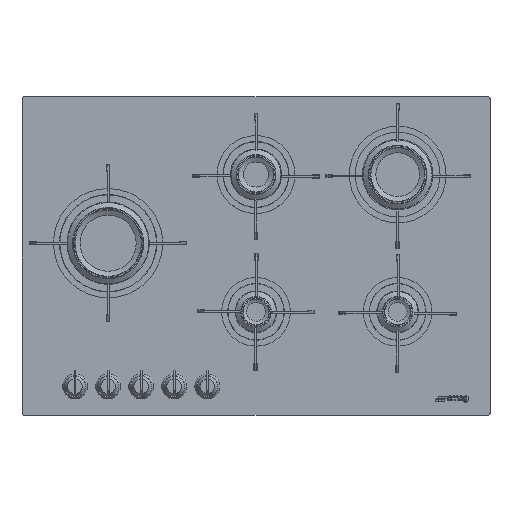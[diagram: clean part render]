
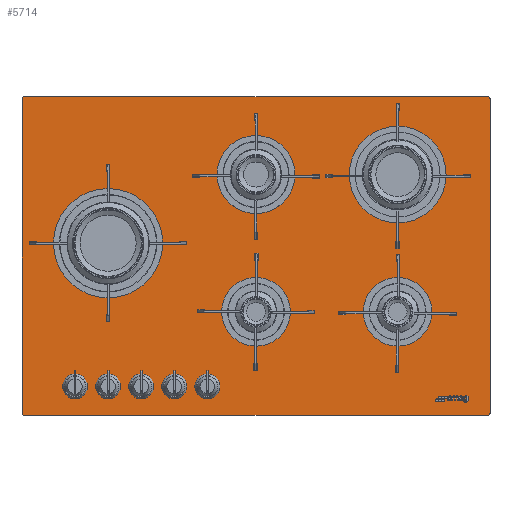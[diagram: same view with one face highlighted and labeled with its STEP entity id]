
A CAD part, top view. The second image highlights one B-rep face of the part: STEP entity #5714.
In plain terms, the highlighted planar face has unit normal (0, 0, 1).
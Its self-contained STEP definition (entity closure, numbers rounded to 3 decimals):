
#2130=PLANE('',#16593);
#3343=LINE('',#25058,#4717);
#3347=LINE('',#25067,#4721);
#3353=LINE('',#25081,#4727);
#3357=LINE('',#25090,#4731);
#4717=VECTOR('',#20330,1.);
#4721=VECTOR('',#20336,1.);
#4727=VECTOR('',#20344,1.);
#4731=VECTOR('',#20350,1.);
#5714=ADVANCED_FACE('',(#6378,#6379,#6380,#6381,#6382,#6383,#6384,#6385,
#6386,#6387,#6388),#2130,.T.);
#6378=FACE_BOUND('',#7298,.T.);
#6379=FACE_BOUND('',#7299,.T.);
#6380=FACE_BOUND('',#7300,.T.);
#6381=FACE_BOUND('',#7301,.T.);
#6382=FACE_BOUND('',#7302,.T.);
#6383=FACE_BOUND('',#7303,.T.);
#6384=FACE_BOUND('',#7304,.T.);
#6385=FACE_BOUND('',#7305,.T.);
#6386=FACE_BOUND('',#7306,.T.);
#6387=FACE_BOUND('',#7307,.T.);
#6388=FACE_BOUND('',#7308,.T.);
#7298=EDGE_LOOP('',(#10750));
#7299=EDGE_LOOP('',(#10751));
#7300=EDGE_LOOP('',(#10752));
#7301=EDGE_LOOP('',(#10753));
#7302=EDGE_LOOP('',(#10754));
#7303=EDGE_LOOP('',(#10755));
#7304=EDGE_LOOP('',(#10756));
#7305=EDGE_LOOP('',(#10757));
#7306=EDGE_LOOP('',(#10758));
#7307=EDGE_LOOP('',(#10759));
#7308=EDGE_LOOP('',(#10760,#10761,#10762,#10763,#10764,#10765,#10766,#10767));
#10750=ORIENTED_EDGE('',*,*,#14472,.F.);
#10751=ORIENTED_EDGE('',*,*,#14473,.F.);
#10752=ORIENTED_EDGE('',*,*,#14474,.F.);
#10753=ORIENTED_EDGE('',*,*,#14475,.F.);
#10754=ORIENTED_EDGE('',*,*,#14476,.F.);
#10755=ORIENTED_EDGE('',*,*,#14477,.F.);
#10756=ORIENTED_EDGE('',*,*,#14478,.F.);
#10757=ORIENTED_EDGE('',*,*,#14479,.F.);
#10758=ORIENTED_EDGE('',*,*,#14480,.F.);
#10759=ORIENTED_EDGE('',*,*,#14481,.F.);
#10760=ORIENTED_EDGE('',*,*,#14470,.T.);
#10761=ORIENTED_EDGE('',*,*,#14482,.T.);
#10762=ORIENTED_EDGE('',*,*,#14456,.T.);
#10763=ORIENTED_EDGE('',*,*,#14483,.T.);
#10764=ORIENTED_EDGE('',*,*,#14460,.T.);
#10765=ORIENTED_EDGE('',*,*,#14484,.T.);
#10766=ORIENTED_EDGE('',*,*,#14466,.T.);
#10767=ORIENTED_EDGE('',*,*,#14485,.T.);
#12582=VERTEX_POINT('',#25059);
#12583=VERTEX_POINT('',#25060);
#12586=VERTEX_POINT('',#25068);
#12587=VERTEX_POINT('',#25069);
#12592=VERTEX_POINT('',#25080);
#12593=VERTEX_POINT('',#25082);
#12596=VERTEX_POINT('',#25089);
#12597=VERTEX_POINT('',#25091);
#12598=VERTEX_POINT('',#25095);
#12599=VERTEX_POINT('',#25097);
#12600=VERTEX_POINT('',#25099);
#12601=VERTEX_POINT('',#25101);
#12602=VERTEX_POINT('',#25103);
#12603=VERTEX_POINT('',#25105);
#12604=VERTEX_POINT('',#25107);
#12605=VERTEX_POINT('',#25109);
#12606=VERTEX_POINT('',#25111);
#12607=VERTEX_POINT('',#25113);
#14456=EDGE_CURVE('',#12582,#12583,#3343,.T.);
#14460=EDGE_CURVE('',#12586,#12587,#3347,.T.);
#14466=EDGE_CURVE('',#12593,#12592,#3353,.T.);
#14470=EDGE_CURVE('',#12597,#12596,#3357,.T.);
#14472=EDGE_CURVE('',#12598,#12598,#15286,.T.);
#14473=EDGE_CURVE('',#12599,#12599,#15287,.T.);
#14474=EDGE_CURVE('',#12600,#12600,#15288,.T.);
#14475=EDGE_CURVE('',#12601,#12601,#15289,.T.);
#14476=EDGE_CURVE('',#12602,#12602,#15290,.T.);
#14477=EDGE_CURVE('',#12603,#12603,#15291,.T.);
#14478=EDGE_CURVE('',#12604,#12604,#15292,.T.);
#14479=EDGE_CURVE('',#12605,#12605,#15293,.T.);
#14480=EDGE_CURVE('',#12606,#12606,#15294,.T.);
#14481=EDGE_CURVE('',#12607,#12607,#15295,.T.);
#14482=EDGE_CURVE('',#12596,#12582,#15296,.T.);
#14483=EDGE_CURVE('',#12583,#12586,#15297,.T.);
#14484=EDGE_CURVE('',#12587,#12593,#15298,.T.);
#14485=EDGE_CURVE('',#12592,#12597,#15299,.T.);
#15286=CIRCLE('',#16579,71.5);
#15287=CIRCLE('',#16580,49.);
#15288=CIRCLE('',#16581,56.5);
#15289=CIRCLE('',#16582,81.5);
#15290=CIRCLE('',#16583,49.);
#15291=CIRCLE('',#16584,12.5);
#15292=CIRCLE('',#16585,12.5);
#15293=CIRCLE('',#16586,12.5);
#15294=CIRCLE('',#16587,12.5);
#15295=CIRCLE('',#16588,12.5);
#15296=CIRCLE('',#16589,3.);
#15297=CIRCLE('',#16590,3.);
#15298=CIRCLE('',#16591,3.);
#15299=CIRCLE('',#16592,3.);
#16579=AXIS2_PLACEMENT_3D('',#25094,#20354,#20355);
#16580=AXIS2_PLACEMENT_3D('',#25096,#20356,#20357);
#16581=AXIS2_PLACEMENT_3D('',#25098,#20358,#20359);
#16582=AXIS2_PLACEMENT_3D('',#25100,#20360,#20361);
#16583=AXIS2_PLACEMENT_3D('',#25102,#20362,#20363);
#16584=AXIS2_PLACEMENT_3D('',#25104,#20364,#20365);
#16585=AXIS2_PLACEMENT_3D('',#25106,#20366,#20367);
#16586=AXIS2_PLACEMENT_3D('',#25108,#20368,#20369);
#16587=AXIS2_PLACEMENT_3D('',#25110,#20370,#20371);
#16588=AXIS2_PLACEMENT_3D('',#25112,#20372,#20373);
#16589=AXIS2_PLACEMENT_3D('',#25114,#20374,#20375);
#16590=AXIS2_PLACEMENT_3D('',#25115,#20376,#20377);
#16591=AXIS2_PLACEMENT_3D('',#25116,#20378,#20379);
#16592=AXIS2_PLACEMENT_3D('',#25117,#20380,#20381);
#16593=AXIS2_PLACEMENT_3D('',#25118,#20382,#20383);
#20330=DIRECTION('',(0.,-1.,0.));
#20336=DIRECTION('',(1.,0.,0.));
#20344=DIRECTION('',(0.,1.,0.));
#20350=DIRECTION('',(-1.,0.,0.));
#20354=DIRECTION('',(0.,0.,1.));
#20355=DIRECTION('',(1.,0.,0.));
#20356=DIRECTION('',(0.,0.,1.));
#20357=DIRECTION('',(1.,0.,0.));
#20358=DIRECTION('',(0.,0.,1.));
#20359=DIRECTION('',(1.,0.,0.));
#20360=DIRECTION('',(0.,0.,1.));
#20361=DIRECTION('',(1.,0.,0.));
#20362=DIRECTION('',(0.,0.,1.));
#20363=DIRECTION('',(1.,0.,0.));
#20364=DIRECTION('',(0.,0.,1.));
#20365=DIRECTION('',(1.,0.,0.));
#20366=DIRECTION('',(0.,0.,1.));
#20367=DIRECTION('',(1.,0.,0.));
#20368=DIRECTION('',(0.,0.,1.));
#20369=DIRECTION('',(1.,0.,0.));
#20370=DIRECTION('',(0.,0.,1.));
#20371=DIRECTION('',(1.,0.,0.));
#20372=DIRECTION('',(0.,0.,1.));
#20373=DIRECTION('',(1.,0.,0.));
#20374=DIRECTION('',(0.,0.,1.));
#20375=DIRECTION('',(1.,0.,0.));
#20376=DIRECTION('',(0.,0.,1.));
#20377=DIRECTION('',(1.,0.,0.));
#20378=DIRECTION('',(0.,0.,1.));
#20379=DIRECTION('',(1.,0.,0.));
#20380=DIRECTION('',(0.,0.,1.));
#20381=DIRECTION('',(1.,0.,0.));
#20382=DIRECTION('',(0.,0.,1.));
#20383=DIRECTION('',(1.,0.,0.));
#25058=CARTESIAN_POINT('',(-375.,495.5,56.));
#25059=CARTESIAN_POINT('',(-375.,492.5,56.));
#25060=CARTESIAN_POINT('',(-375.,-11.5,56.));
#25067=CARTESIAN_POINT('',(-375.,-14.5,56.));
#25068=CARTESIAN_POINT('',(-372.,-14.5,56.));
#25069=CARTESIAN_POINT('',(372.,-14.5,56.));
#25080=CARTESIAN_POINT('',(375.,492.5,56.));
#25081=CARTESIAN_POINT('',(375.,-14.5,56.));
#25082=CARTESIAN_POINT('',(375.,-11.5,56.));
#25089=CARTESIAN_POINT('',(-372.,495.5,56.));
#25090=CARTESIAN_POINT('',(375.,495.5,56.));
#25091=CARTESIAN_POINT('',(372.,495.5,56.));
#25094=CARTESIAN_POINT('',(227.,371.,56.));
#25095=CARTESIAN_POINT('',(298.5,371.,56.));
#25096=CARTESIAN_POINT('',(0.,151.,56.));
#25097=CARTESIAN_POINT('',(49.,151.,56.));
#25098=CARTESIAN_POINT('',(0.,371.,56.));
#25099=CARTESIAN_POINT('',(56.5,371.,56.));
#25100=CARTESIAN_POINT('',(-237.,261.,56.));
#25101=CARTESIAN_POINT('',(-155.5,261.,56.));
#25102=CARTESIAN_POINT('',(227.,151.,56.));
#25103=CARTESIAN_POINT('',(276.,151.,56.));
#25104=CARTESIAN_POINT('',(-78.,31.5,56.));
#25105=CARTESIAN_POINT('',(-65.5,31.5,56.));
#25106=CARTESIAN_POINT('',(-131.,31.5,56.));
#25107=CARTESIAN_POINT('',(-118.5,31.5,56.));
#25108=CARTESIAN_POINT('',(-184.,31.5,56.));
#25109=CARTESIAN_POINT('',(-171.5,31.5,56.));
#25110=CARTESIAN_POINT('',(-237.,31.5,56.));
#25111=CARTESIAN_POINT('',(-224.5,31.5,56.));
#25112=CARTESIAN_POINT('',(-290.,31.5,56.));
#25113=CARTESIAN_POINT('',(-277.5,31.5,56.));
#25114=CARTESIAN_POINT('',(-372.,492.5,56.));
#25115=CARTESIAN_POINT('',(-372.,-11.5,56.));
#25116=CARTESIAN_POINT('',(372.,-11.5,56.));
#25117=CARTESIAN_POINT('',(372.,492.5,56.));
#25118=CARTESIAN_POINT('',(0.,-14.5,56.));
